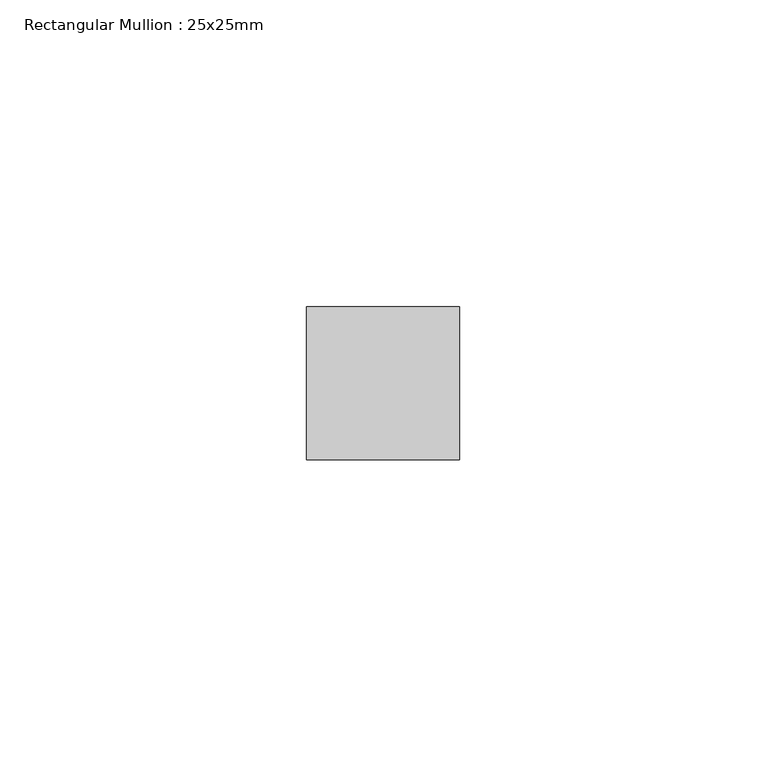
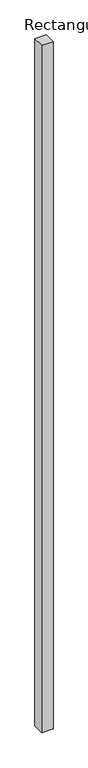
"""IFC4 building model written with IfcOpenShell, lengths in millimetres: member geometry, Rectangular Mullion : 25x25mm."""

import ifcopenshell
import ifcopenshell.guid

model = None  # the IFC model being written
_history = None  # IfcOwnerHistory: only IFC2X3 demands one
_inside = {}  # id of a spatial element -> (the spatial element, [elements in it])
_under = {}  # id of a project, library or spatial element -> (it, [spatial elements below it])
_declared = {}  # id of a project -> (the project, [libraries it declares])
_typed = {}  # id of a type object -> (the type object, [elements of that type])
_made_of = {}  # id of a material, layer set ... -> (it, [elements and type objects made of it])


def new_model(schema):
    """Start an empty IFC model of exactly this schema.

    Asked for "IFC4X3", IfcOpenShell would pick the latest addendum, in which some entities
    have other attributes; the version numbers below select the first issue.
    IFC2X3 requires an IfcOwnerHistory on every rooted entity: one is made here for all.
    """
    global model, _history
    if schema == "IFC4X3":
        model = ifcopenshell.file(schema_version=(4, 3, 0, 0))
    else:
        model = ifcopenshell.file(schema=schema)
    _inside.clear()
    _under.clear()
    _declared.clear()
    _typed.clear()
    _made_of.clear()
    _history = None
    if model.schema == "IFC2X3":
        org = make("IfcOrganization", Name="unknown")
        user = make(
            "IfcPersonAndOrganization",
            ThePerson=make("IfcPerson", FamilyName="unknown"),
            TheOrganization=org,
        )
        app = make(
            "IfcApplication",
            ApplicationDeveloper=org,
            Version="unknown",
            ApplicationFullName="unknown",
            ApplicationIdentifier="unknown",
        )
        _history = make(
            "IfcOwnerHistory",
            OwningUser=user,
            OwningApplication=app,
            ChangeAction="ADDED",
            CreationDate=0,
        )
    return model


def make(cls, **values):
    """One entity of the class cls with the attributes given. An attribute that is None is left unset."""
    return model.create_entity(
        cls, **{name: value for name, value in values.items() if value is not None}
    )


def rooted(cls, **values):
    """An entity with a GlobalId (a new one), such as an element, a storey or a relation."""
    return make(cls, GlobalId=ifcopenshell.guid.new(), OwnerHistory=_history, **values)


def si_unit(unit_type, name, prefix=None):
    """IfcSIUnit, for example si_unit("LENGTHUNIT", "METRE", prefix="MILLI")."""
    return make("IfcSIUnit", UnitType=unit_type, Prefix=prefix, Name=name)


def assignment(units):
    """IfcUnitAssignment: the units of a project."""
    return None if units is None else make("IfcUnitAssignment", Units=units)


def point(xyz):
    """IfcCartesianPoint."""
    return None if xyz is None else make("IfcCartesianPoint", Coordinates=xyz)


def direction(xyz):
    """IfcDirection."""
    return None if xyz is None else make("IfcDirection", DirectionRatios=xyz)


def frame(location, z_axis=None, x_axis=None):
    """IfcAxis2Placement3D, a coordinate frame: its origin and axes. An axis left out is left unset."""
    return make(
        "IfcAxis2Placement3D",
        Location=point(location),
        Axis=direction(z_axis),
        RefDirection=direction(x_axis),
    )


def origin():
    """The frame at (0, 0, 0) with its axes left unset."""
    return frame((0.0, 0.0, 0.0))


def place(relative_to, where):
    """IfcLocalPlacement: puts the frame where relative to a parent placement (None: the world)."""
    return make(
        "IfcLocalPlacement", PlacementRelTo=relative_to, RelativePlacement=where
    )


def context(
    kind, dimensions, precision=None, world=None, true_north=None, identifier=None
):
    """IfcGeometricRepresentationContext, for example the 3D "Model" context."""
    return make(
        "IfcGeometricRepresentationContext",
        ContextIdentifier=identifier,
        ContextType=kind,
        CoordinateSpaceDimension=dimensions,
        Precision=precision,
        WorldCoordinateSystem=world,
        TrueNorth=true_north,
    )


def project(units=None, contexts=None):
    """IfcProject with its units and contexts."""
    return rooted(
        "IfcProject",
        Name="project",
        RepresentationContexts=contexts,
        UnitsInContext=assignment(units),
    )


def spatial(cls, under=None, at=None, **own):
    """A site, building, storey or space (cls), placed at a placement, below another one or the project."""
    s = rooted(cls, ObjectPlacement=at, **own)
    if under is not None:
        _under.setdefault(under.id(), (under, []))[1].append(s)
    return s


def polyline(points):
    """IfcPolyline through the points."""
    return make("IfcPolyline", Points=[point(p) for p in points])


def outline(outer, holes=None, kind="AREA"):
    """IfcArbitraryClosedProfileDef: a profile drawn as a closed curve; with holes, ...WithVoids."""
    if holes is None:
        return make("IfcArbitraryClosedProfileDef", ProfileType=kind, OuterCurve=outer)
    return make(
        "IfcArbitraryProfileDefWithVoids",
        ProfileType=kind,
        OuterCurve=outer,
        InnerCurves=holes,
    )


def extrude(swept, where, along, depth):
    """IfcExtrudedAreaSolid: the profile swept, set in the frame where, extruded along a direction by depth."""
    return make(
        "IfcExtrudedAreaSolid",
        SweptArea=swept,
        Position=where,
        ExtrudedDirection=direction(along),
        Depth=depth,
    )


def shape(context_of_items, identifier, shape_type, items):
    """IfcShapeRepresentation: the items that make up one representation, for example the "Body"."""
    return make(
        "IfcShapeRepresentation",
        ContextOfItems=context_of_items,
        RepresentationIdentifier=identifier,
        RepresentationType=shape_type,
        Items=items,
    )


def source(mapping_origin, context_of_items, identifier, shape_type, items):
    """IfcRepresentationMap: a shape defined once, which mapped items show again and again."""
    return make(
        "IfcRepresentationMap",
        MappingOrigin=mapping_origin,
        MappedRepresentation=shape(context_of_items, identifier, shape_type, items),
    )


def transform(
    local_origin,
    x_axis=None,
    y_axis=None,
    z_axis=None,
    scale=None,
    scale2=None,
    scale3=None,
    uniform=True,
):
    """IfcCartesianTransformationOperator3D, or its non-uniform kind. x_axis, y_axis, z_axis: its Axis1, 2, 3."""
    if uniform:
        return make(
            "IfcCartesianTransformationOperator3D",
            Axis1=direction(x_axis),
            Axis2=direction(y_axis),
            LocalOrigin=point(local_origin),
            Scale=scale,
            Axis3=direction(z_axis),
        )
    return make(
        "IfcCartesianTransformationOperator3DnonUniform",
        Axis1=direction(x_axis),
        Axis2=direction(y_axis),
        LocalOrigin=point(local_origin),
        Scale=scale,
        Axis3=direction(z_axis),
        Scale2=scale2,
        Scale3=scale3,
    )


def mapped(mapping_source, mapping_target):
    """IfcMappedItem: shows the shape of a source again, moved by a transform."""
    return make(
        "IfcMappedItem", MappingSource=mapping_source, MappingTarget=mapping_target
    )


def made_of(thing, what):
    """Note that an element or type object is made of a material, layer set ...; save() writes the relation."""
    if what is not None:
        _made_of.setdefault(what.id(), (what, []))[1].append(thing)
    return thing


def element(
    cls,
    number,
    at=None,
    inside=None,
    cuts=None,
    type_object=None,
    material=None,
    context=None,
    identifier="Body",
    shape_type=None,
    held_by="IfcProductDefinitionShape",
    body=None,
    shapes=None,
    **own,
):
    """One element of the class cls, such as IfcWall. Its Tag is "e" and its number.

    at: its placement. inside: the storey or other place that contains it. cuts: it is an
    opening in that element (IfcRelVoidsElement). A single representation is given by context,
    identifier, shape_type and body (its items); several are given by shapes. held_by: the class
    of the entity that holds the representations. save() writes the other relations.
    """
    e = rooted(cls, Tag="e%d" % number, ObjectPlacement=at, **own)
    if body is not None:
        shapes = [shape(context, identifier, shape_type, body)]
    if shapes is not None:
        e.Representation = make(held_by, Representations=shapes)
    if inside is not None:
        _inside.setdefault(inside.id(), (inside, []))[1].append(e)
    if cuts is not None:
        rooted(
            "IfcRelVoidsElement", RelatingBuildingElement=cuts, RelatedOpeningElement=e
        )
    if type_object is not None:
        _typed.setdefault(type_object.id(), (type_object, []))[1].append(e)
    return made_of(e, material)


def aggregate(whole, parts):
    """IfcRelAggregates: a whole, such as a stair, and the parts it consists of."""
    return rooted("IfcRelAggregates", RelatingObject=whole, RelatedObjects=parts)


def save(model, path):
    """Write the relations noted so far, then the file.

    IfcRelAggregates (storeys below a building ...), IfcRelContainedInSpatialStructure (elements
    in a storey), IfcRelDefinesByType, IfcRelAssociatesMaterial and IfcRelDeclares: one each for
    every whole, place, type object, material and project.
    """
    for whole, parts in _under.values():
        aggregate(whole, parts)
    for where, things in _inside.values():
        rooted(
            "IfcRelContainedInSpatialStructure",
            RelatedElements=things,
            RelatingStructure=where,
        )
    for kind, things in _typed.values():
        rooted("IfcRelDefinesByType", RelatedObjects=things, RelatingType=kind)
    for what, things in _made_of.values():
        rooted("IfcRelAssociatesMaterial", RelatedObjects=things, RelatingMaterial=what)
    for by, libraries in _declared.values():
        rooted("IfcRelDeclares", RelatingContext=by, RelatedDefinitions=libraries)
    model.write(path)


def rectangular_mullion_25x25mm_a2025cdc(model_context):
    return source(origin(), model_context, "Body", "SweptSolid", [
        extrude(outline(polyline([(0.0, 0.5), (0.0, -24.5), (-25.0, -24.5), (-25.0, 0.5), (0.0, 0.5)])), frame((0.0, 0.0, -1578.125), z_axis=(0.0, 0.0, 1.0), x_axis=(1.0, 0.0, 0.0)), (0.0, 0.0, 1.0), 1578.125),
    ])


if __name__ == "__main__":
    model = new_model("IFC4")
    model_context = context("Model", 3, world=origin())
    ifc_project = project(units=[si_unit("LENGTHUNIT", "METRE", prefix="MILLI")], contexts=[model_context])
    site = spatial("IfcSite", under=ifc_project)
    building = spatial("IfcBuilding", under=site)
    placement = place(None, origin())
    rectangular_mullion_25x25mm_shape = rectangular_mullion_25x25mm_a2025cdc(model_context)
    element("IfcMember", 1, ObjectType="Rectangular Mullion : 25x25mm", at=placement, inside=building, context=model_context, shape_type="MappedRepresentation", body=[
        mapped(rectangular_mullion_25x25mm_shape, transform((0.0, 0.0, 0.0), x_axis=(1.0, 0.0, 0.0), y_axis=(0.0, 1.0, 0.0), z_axis=(0.0, 0.0, 1.0))),
    ])
    save(model, "model.ifc")
